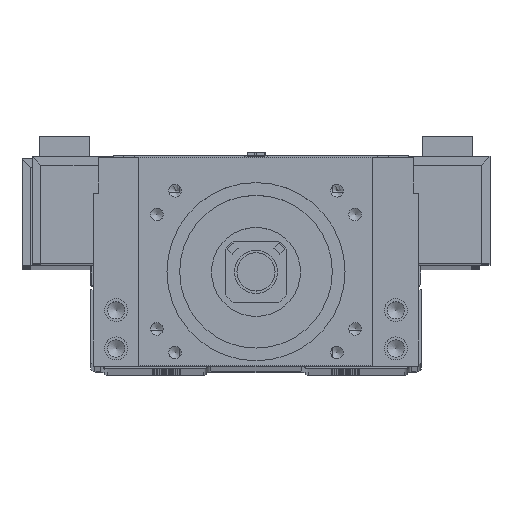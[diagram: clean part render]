
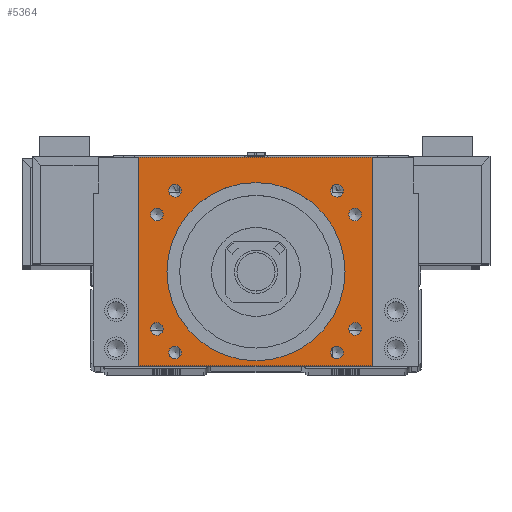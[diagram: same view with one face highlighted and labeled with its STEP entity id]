
A CAD part, top view. The second image highlights one B-rep face of the part: STEP entity #5364.
In plain terms, the highlighted planar face has unit normal (0, 0, 1).
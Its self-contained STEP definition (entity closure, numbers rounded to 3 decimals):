
#2178=FACE_BOUND('',#13999,.T.);
#2179=FACE_BOUND('',#14000,.T.);
#2180=FACE_BOUND('',#14001,.T.);
#2181=FACE_BOUND('',#14002,.T.);
#2182=FACE_BOUND('',#14003,.T.);
#2183=FACE_BOUND('',#14004,.T.);
#2184=FACE_BOUND('',#14005,.T.);
#2185=FACE_BOUND('',#14006,.T.);
#2186=FACE_BOUND('',#14007,.T.);
#2187=FACE_BOUND('',#14008,.T.);
#3194=CIRCLE('',#55496,35.015);
#3195=CIRCLE('',#55498,2.5);
#3196=CIRCLE('',#55499,2.5);
#3197=CIRCLE('',#55500,2.5);
#3198=CIRCLE('',#55501,2.5);
#3199=CIRCLE('',#55502,2.5);
#3200=CIRCLE('',#55503,2.5);
#3201=CIRCLE('',#55504,2.5);
#3202=CIRCLE('',#55505,2.5);
#5364=ADVANCED_FACE('',(#2178,#2179,#2180,#2181,#2182,#2183,#2184,#2185,
#2186,#2187),#8371,.T.);
#8371=PLANE('',#55506);
#13999=EDGE_LOOP('',(#23751,#23752,#23753,#23754));
#14000=EDGE_LOOP('',(#23755));
#14001=EDGE_LOOP('',(#23756));
#14002=EDGE_LOOP('',(#23757));
#14003=EDGE_LOOP('',(#23758));
#14004=EDGE_LOOP('',(#23759));
#14005=EDGE_LOOP('',(#23760));
#14006=EDGE_LOOP('',(#23761));
#14007=EDGE_LOOP('',(#23762));
#14008=EDGE_LOOP('',(#23763));
#23751=ORIENTED_EDGE('',*,*,#38308,.T.);
#23752=ORIENTED_EDGE('',*,*,#37572,.T.);
#23753=ORIENTED_EDGE('',*,*,#38303,.T.);
#23754=ORIENTED_EDGE('',*,*,#38313,.T.);
#23755=ORIENTED_EDGE('',*,*,#38321,.F.);
#23756=ORIENTED_EDGE('',*,*,#38322,.T.);
#23757=ORIENTED_EDGE('',*,*,#38323,.T.);
#23758=ORIENTED_EDGE('',*,*,#38324,.F.);
#23759=ORIENTED_EDGE('',*,*,#38320,.F.);
#23760=ORIENTED_EDGE('',*,*,#38325,.T.);
#23761=ORIENTED_EDGE('',*,*,#38326,.T.);
#23762=ORIENTED_EDGE('',*,*,#38327,.T.);
#23763=ORIENTED_EDGE('',*,*,#38328,.T.);
#31715=VERTEX_POINT('',#77767);
#31716=VERTEX_POINT('',#77769);
#32260=VERTEX_POINT('',#79636);
#32262=VERTEX_POINT('',#79647);
#32268=VERTEX_POINT('',#79671);
#32269=VERTEX_POINT('',#79674);
#32270=VERTEX_POINT('',#79676);
#32271=VERTEX_POINT('',#79678);
#32272=VERTEX_POINT('',#79680);
#32273=VERTEX_POINT('',#79682);
#32274=VERTEX_POINT('',#79684);
#32275=VERTEX_POINT('',#79686);
#32276=VERTEX_POINT('',#79688);
#37572=EDGE_CURVE('',#31716,#31715,#44582,.T.);
#38303=EDGE_CURVE('',#31715,#32260,#45015,.T.);
#38308=EDGE_CURVE('',#32262,#31716,#45020,.T.);
#38313=EDGE_CURVE('',#32260,#32262,#45025,.T.);
#38320=EDGE_CURVE('',#32268,#32268,#3194,.T.);
#38321=EDGE_CURVE('',#32269,#32269,#3195,.T.);
#38322=EDGE_CURVE('',#32270,#32270,#3196,.T.);
#38323=EDGE_CURVE('',#32271,#32271,#3197,.T.);
#38324=EDGE_CURVE('',#32272,#32272,#3198,.T.);
#38325=EDGE_CURVE('',#32273,#32273,#3199,.T.);
#38326=EDGE_CURVE('',#32274,#32274,#3200,.T.);
#38327=EDGE_CURVE('',#32275,#32275,#3201,.T.);
#38328=EDGE_CURVE('',#32276,#32276,#3202,.T.);
#44582=LINE('',#77768,#50665);
#45015=LINE('',#79638,#51098);
#45020=LINE('',#79646,#51103);
#45025=LINE('',#79655,#51108);
#50665=VECTOR('',#63467,1.);
#51098=VECTOR('',#64990,1.);
#51103=VECTOR('',#65001,1.);
#51108=VECTOR('',#65008,1.);
#55496=AXIS2_PLACEMENT_3D('',#79670,#65027,#65028);
#55498=AXIS2_PLACEMENT_3D('',#79673,#65031,#65032);
#55499=AXIS2_PLACEMENT_3D('',#79675,#65033,#65034);
#55500=AXIS2_PLACEMENT_3D('',#79677,#65035,#65036);
#55501=AXIS2_PLACEMENT_3D('',#79679,#65037,#65038);
#55502=AXIS2_PLACEMENT_3D('',#79681,#65039,#65040);
#55503=AXIS2_PLACEMENT_3D('',#79683,#65041,#65042);
#55504=AXIS2_PLACEMENT_3D('',#79685,#65043,#65044);
#55505=AXIS2_PLACEMENT_3D('',#79687,#65045,#65046);
#55506=AXIS2_PLACEMENT_3D('',#79689,#65047,#65048);
#63467=DIRECTION('',(-1.,0.,0.));
#64990=DIRECTION('',(0.,-1.,0.));
#65001=DIRECTION('',(0.,1.,0.));
#65008=DIRECTION('',(1.,0.,0.));
#65027=DIRECTION('',(0.,0.,1.));
#65028=DIRECTION('',(1.,0.,0.));
#65031=DIRECTION('',(0.,0.,1.));
#65032=DIRECTION('',(-1.,0.,0.));
#65033=DIRECTION('',(0.,0.,-1.));
#65034=DIRECTION('',(1.,0.,0.));
#65035=DIRECTION('',(0.,0.,-1.));
#65036=DIRECTION('',(1.,0.,0.));
#65037=DIRECTION('',(0.,0.,1.));
#65038=DIRECTION('',(-1.,0.,0.));
#65039=DIRECTION('',(0.,0.,-1.));
#65040=DIRECTION('',(1.,0.,0.));
#65041=DIRECTION('',(0.,0.,-1.));
#65042=DIRECTION('',(1.,0.,0.));
#65043=DIRECTION('',(0.,0.,-1.));
#65044=DIRECTION('',(1.,0.,0.));
#65045=DIRECTION('',(0.,0.,-1.));
#65046=DIRECTION('',(1.,0.,0.));
#65047=DIRECTION('',(0.,0.,1.));
#65048=DIRECTION('',(-1.,0.,0.));
#77767=CARTESIAN_POINT('',(-46.,83.,100.));
#77768=CARTESIAN_POINT('',(0.,83.,100.));
#77769=CARTESIAN_POINT('',(46.,83.,100.));
#79636=CARTESIAN_POINT('',(-46.,1.,100.));
#79638=CARTESIAN_POINT('',(-46.,38.,100.));
#79646=CARTESIAN_POINT('',(46.,38.,100.));
#79647=CARTESIAN_POINT('',(46.,1.,100.));
#79655=CARTESIAN_POINT('',(0.,1.,100.));
#79670=CARTESIAN_POINT('',(0.,38.,100.));
#79671=CARTESIAN_POINT('',(35.015,38.,100.));
#79673=CARTESIAN_POINT('',(-38.971,15.5,100.));
#79674=CARTESIAN_POINT('',(-41.471,15.5,100.));
#79675=CARTESIAN_POINT('',(38.971,60.5,100.));
#79676=CARTESIAN_POINT('',(41.471,60.5,100.));
#79677=CARTESIAN_POINT('',(38.971,15.5,100.));
#79678=CARTESIAN_POINT('',(41.471,15.5,100.));
#79679=CARTESIAN_POINT('',(-38.971,60.5,100.));
#79680=CARTESIAN_POINT('',(-41.471,60.5,100.));
#79681=CARTESIAN_POINT('',(-31.82,69.82,100.));
#79682=CARTESIAN_POINT('',(-29.32,69.82,100.));
#79683=CARTESIAN_POINT('',(-31.82,6.18,100.));
#79684=CARTESIAN_POINT('',(-29.32,6.18,100.));
#79685=CARTESIAN_POINT('',(31.82,6.18,100.));
#79686=CARTESIAN_POINT('',(34.32,6.18,100.));
#79687=CARTESIAN_POINT('',(31.82,69.82,100.));
#79688=CARTESIAN_POINT('',(34.32,69.82,100.));
#79689=CARTESIAN_POINT('',(0.,38.,100.));
